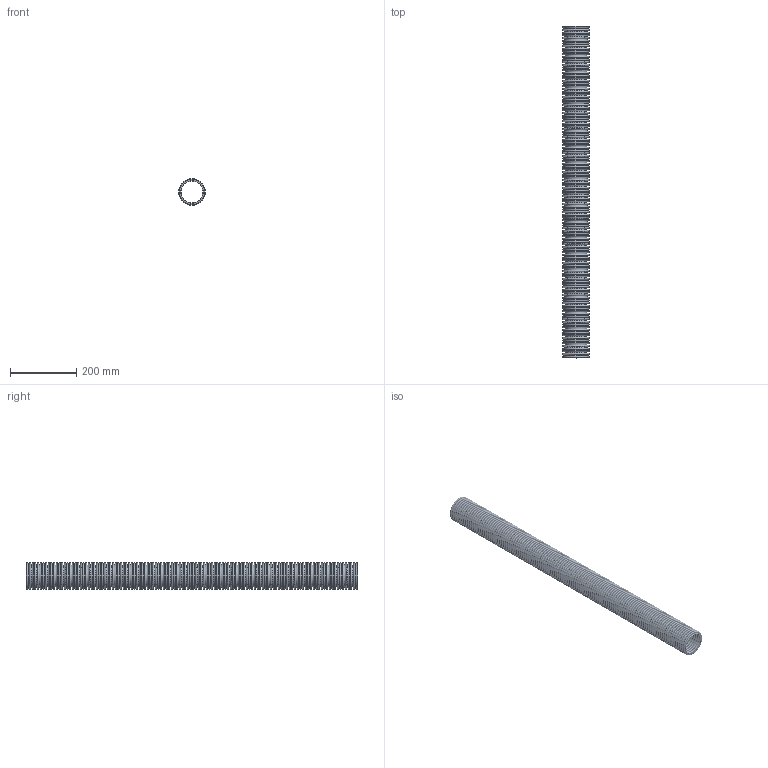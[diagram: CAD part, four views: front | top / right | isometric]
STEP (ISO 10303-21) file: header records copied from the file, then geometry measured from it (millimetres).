
FILE_DESCRIPTION( ( 'Unknown' ), '1' );
FILE_NAME( 'X:/Daten ( aktueller Bestand )/Projekte und Zeichnungen/Solid Edge/STP-Dateien/ISO-K Teile und Zubehör/6971.stp', 'Unknown', ( 'Unknown' ), ( 'Unknown' ), 'PSStep 14.0', 'Unknown', ' ' );
FILE_SCHEMA( ( 'AUTOMOTIVE_DESIGN { 1 0 10303 214 1 1 1 1 }' ) );
Length unit declared in the file: millimetre
Products named in the file (1): 1
Bounding box: 79.99 x 1000 x 79.99 mm (x, y, z)
Volume: 111069.1 mm3; surface area: 1110773.1 mm2
Topology: 1 solids, 1 shells, 1124 faces, 1751 edges, 1125 vertices
Faces by surface type: torus 626, plane 498
Entity records: 31496 total; most frequent: DIRECTION 4498, CARTESIAN_POINT 3373, AXIS2_PLACEMENT_3D 2249, EDGE_LOOP 2248, ORIENTED_EDGE 2248, FACE_OUTER_BOUND 1750, STYLED_ITEM 1124, PRESENTATION_STYLE_ASSIGNMENT 1124
